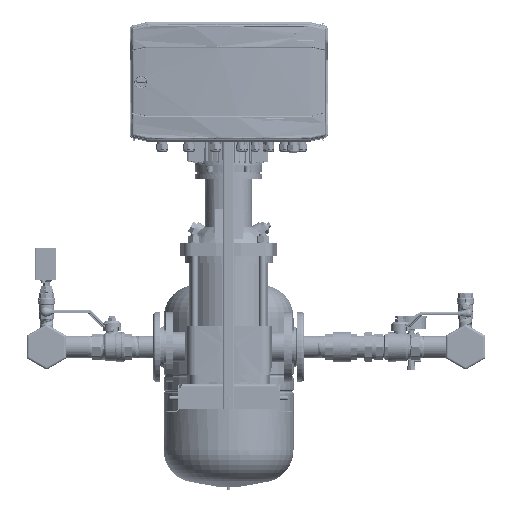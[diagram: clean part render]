
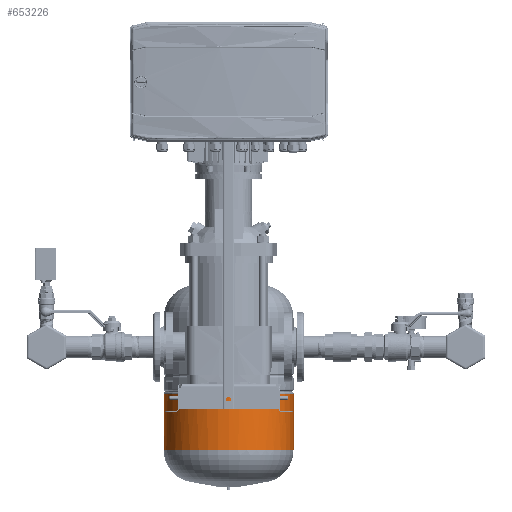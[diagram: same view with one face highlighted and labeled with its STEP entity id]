
A CAD part, left-side view. The second image highlights one B-rep face of the part: STEP entity #653226.
In plain terms, the highlighted cylindrical face has radius 140 mm (diameter 280 mm), a partial arc.
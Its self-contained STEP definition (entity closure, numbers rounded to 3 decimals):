
#646335=CARTESIAN_POINT('Vertex',(-140.,0.,-20.533)) ;
#646338=CARTESIAN_POINT('Axis2P3D Location',(0.,0.,-20.533)) ;
#646342=CARTESIAN_POINT('Vertex',(0.,-140.,-20.533)) ;
#646397=CARTESIAN_POINT('Vertex',(0.,140.,-20.533)) ;
#646400=CARTESIAN_POINT('Axis2P3D Location',(0.,0.,-20.533)) ;
#653141=CARTESIAN_POINT('Axis2P3D Location',(0.,0.,-85.867)) ;
#653146=CARTESIAN_POINT('Line Origine',(0.,140.,-85.867)) ;
#653150=CARTESIAN_POINT('Vertex',(0.,140.,-142.492)) ;
#653153=CARTESIAN_POINT('Line Origine',(0.,-140.,-85.867)) ;
#653157=CARTESIAN_POINT('Vertex',(0.,-140.,-142.492)) ;
#653195=CARTESIAN_POINT('Control Point',(-140.,0.,-142.492)) ;
#653196=CARTESIAN_POINT('Control Point',(-140.,21.991,-142.492)) ;
#653197=CARTESIAN_POINT('Control Point',(-135.682,43.982,-142.492)) ;
#653198=CARTESIAN_POINT('Control Point',(-127.042,64.842,-142.492)) ;
#653199=CARTESIAN_POINT('Control Point',(-102.048,102.048,-142.492)) ;
#653200=CARTESIAN_POINT('Control Point',(-64.842,127.042,-142.492)) ;
#653201=CARTESIAN_POINT('Control Point',(-43.982,135.682,-142.492)) ;
#653202=CARTESIAN_POINT('Control Point',(-21.991,140.,-142.492)) ;
#653203=CARTESIAN_POINT('Control Point',(0.,140.,-142.492)) ;
#653204=CARTESIAN_POINT('Vertex',(-140.,0.,-142.492)) ;
#653208=CARTESIAN_POINT('Control Point',(0.,-140.,-142.492)) ;
#653209=CARTESIAN_POINT('Control Point',(-21.991,-140.,-142.492)) ;
#653210=CARTESIAN_POINT('Control Point',(-43.982,-135.682,-142.492)) ;
#653211=CARTESIAN_POINT('Control Point',(-64.842,-127.042,-142.492)) ;
#653212=CARTESIAN_POINT('Control Point',(-102.048,-102.048,-142.492)) ;
#653213=CARTESIAN_POINT('Control Point',(-127.042,-64.842,-142.492)) ;
#653214=CARTESIAN_POINT('Control Point',(-135.682,-43.982,-142.492)) ;
#653215=CARTESIAN_POINT('Control Point',(-140.,-21.991,-142.492)) ;
#653216=CARTESIAN_POINT('Control Point',(-140.,0.,-142.492)) ;
#653148=VECTOR('Line Direction',#653147,1.) ;
#653155=VECTOR('Line Direction',#653154,1.) ;
#646339=DIRECTION('Axis2P3D Direction',(0.,0.,-1.)) ;
#646401=DIRECTION('Axis2P3D Direction',(0.,0.,-1.)) ;
#653142=DIRECTION('Axis2P3D Direction',(0.,0.,-1.)) ;
#653143=DIRECTION('Axis2P3D XDirection',(0.,-1.,0.)) ;
#653147=DIRECTION('Vector Direction',(0.,0.,-1.)) ;
#653154=DIRECTION('Vector Direction',(0.,0.,-1.)) ;
#646340=AXIS2_PLACEMENT_3D('Circle Axis2P3D',#646338,#646339,$) ;
#646402=AXIS2_PLACEMENT_3D('Circle Axis2P3D',#646400,#646401,$) ;
#653144=AXIS2_PLACEMENT_3D('Cylinder Axis2P3D',#653141,#653142,#653143) ;
#653149=LINE('Line',#653146,#653148) ;
#653156=LINE('Line',#653153,#653155) ;
#646341=CIRCLE('generated circle',#646340,140.) ;
#646403=CIRCLE('generated circle',#646402,140.) ;
#653145=CYLINDRICAL_SURFACE('generated cylinder',#653144,140.) ;
#646344=EDGE_CURVE('',#646336,#646343,#646341,.F.) ;
#646404=EDGE_CURVE('',#646398,#646336,#646403,.F.) ;
#653152=EDGE_CURVE('',#646398,#653151,#653149,.T.) ;
#653159=EDGE_CURVE('',#653158,#646343,#653156,.F.) ;
#653206=EDGE_CURVE('',#653205,#653151,#653194,.T.) ;
#653217=EDGE_CURVE('',#653158,#653205,#653207,.T.) ;
#653219=ORIENTED_EDGE('',*,*,#653159,.T.) ;
#653220=ORIENTED_EDGE('',*,*,#646344,.F.) ;
#653221=ORIENTED_EDGE('',*,*,#646404,.F.) ;
#653222=ORIENTED_EDGE('',*,*,#653152,.T.) ;
#653223=ORIENTED_EDGE('',*,*,#653206,.F.) ;
#653224=ORIENTED_EDGE('',*,*,#653217,.F.) ;
#653218=EDGE_LOOP('',(#653219,#653220,#653221,#653222,#653223,#653224)) ;
#646336=VERTEX_POINT('',#646335) ;
#646343=VERTEX_POINT('',#646342) ;
#646398=VERTEX_POINT('',#646397) ;
#653151=VERTEX_POINT('',#653150) ;
#653158=VERTEX_POINT('',#653157) ;
#653205=VERTEX_POINT('',#653204) ;
#653226=ADVANCED_FACE('MANIFOLD_SOLID_BREP #40',(#653225),#653145,.T.) ;
#653194=B_SPLINE_CURVE_WITH_KNOTS('',5,(#653195,#653196,#653197,#653198,#653199,#653200,#653201,#653202,#653203),.UNSPECIFIED.,.F.,.U.,(6,3,6),(0.,109.956,219.911),.UNSPECIFIED.) ;
#653207=B_SPLINE_CURVE_WITH_KNOTS('',5,(#653208,#653209,#653210,#653211,#653212,#653213,#653214,#653215,#653216),.UNSPECIFIED.,.F.,.U.,(6,3,6),(-219.911,-109.956,0.),.UNSPECIFIED.) ;
#653225=FACE_OUTER_BOUND('',#653218,.T.) ;
